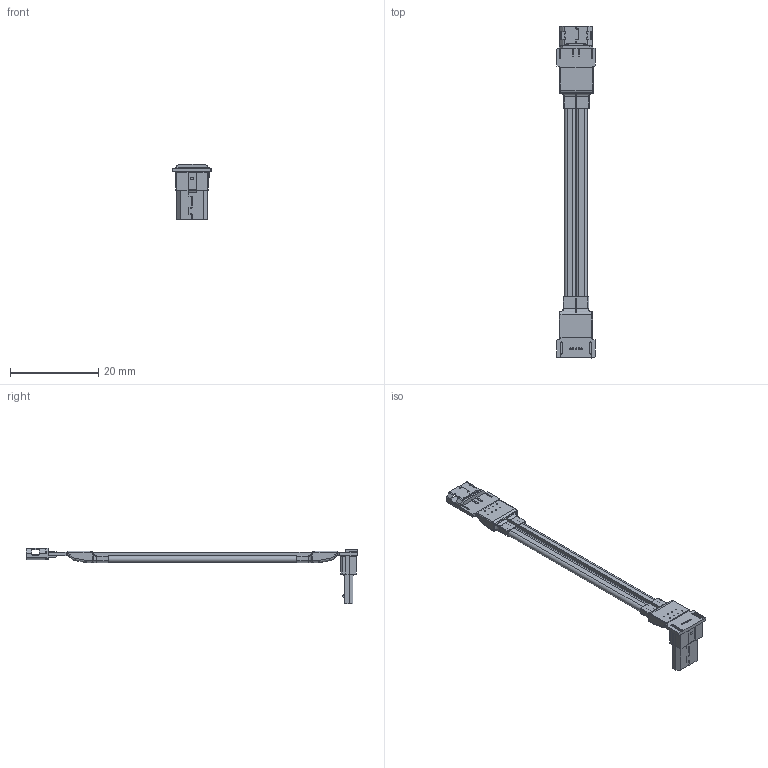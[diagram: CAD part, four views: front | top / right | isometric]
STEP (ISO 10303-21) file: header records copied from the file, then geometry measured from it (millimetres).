
FILE_DESCRIPTION(('Open CASCADE Model'),'2;1');
FILE_NAME('Open CASCADE Shape Model','2022-05-10T00:24:45',('Author'),( 'Open CASCADE'),'Open CASCADE STEP processor 6.8','Open CASCADE 6.8' ,'Unknown');
FILE_SCHEMA(('AUTOMOTIVE_DESIGN { 1 0 10303 214 1 1 1 1 }'));
Length unit declared in the file: millimetre
Products named in the file (11): PCB; Board; Open CASCADE STEP translator 6.8 5.1.1; Open CASCADE STEP translator 6.8 5.1.1.1; Designator22_1; Micro_usb_vetical_20211216（2）; Designator22; USB_micro; Free-Models; UW3R-UW4_2.0_热缩套管__20211216; 8_pin_20211216_(2)
Assembly tree (11 placements, depth 4):
  PCB
    Board
      Open CASCADE STEP translator 6.8 5.1.1
        Open CASCADE STEP translator 6.8 5.1.1.1
    Designator22_1
      Micro_usb_vetical_20211216（2）
    Designator22
      USB_micro
    Free-Models
      UW3R-UW4_2.0_热缩套管__20211216  x2
      8_pin_20211216_(2)
Bounding box: 8.63 x 75.14 x 12.48 mm (x, y, z)
Volume: 679 mm3; surface area: 5144.6 mm2
Topology: 39 solids, 39 shells, 975 faces, 2461 edges, 1561 vertices
Faces by surface type: plane 485, cylinder 374, torus 72, bspline 44
Full cylindrical faces by diameter (mm): 0.36 x5, 0.55 x16
Entity records: 29197 total; most frequent: CARTESIAN_POINT 5046, DIRECTION 4560, ORIENTED_EDGE 4344, EDGE_CURVE 2172, AXIS2_PLACEMENT_3D 1593, VERTEX_POINT 1397, LINE 1374, VECTOR 1374
